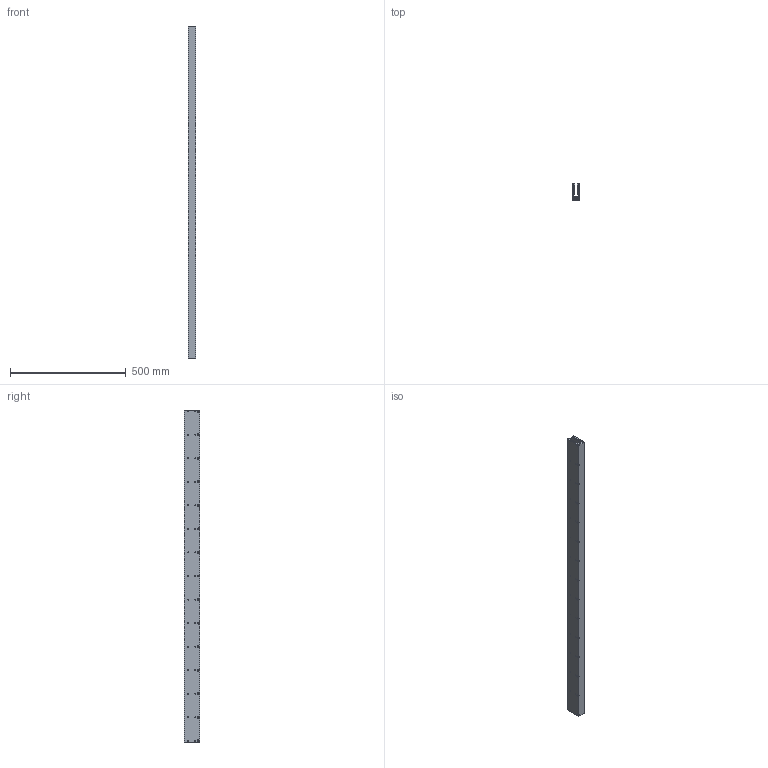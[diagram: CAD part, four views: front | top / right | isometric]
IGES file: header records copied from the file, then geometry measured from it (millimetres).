
Global section: file name: No Iges File Name specified; native system: Autodesk Inventor 2009; preprocessor: AutoDesk Inventor Iges Exporter R2009; author: je17857; date: 20091116.111732; units: inch
Bounding box: 34.29 x 67.31 x 1432.56 mm (x, y, z)
Volume: 2140558.5 mm3; surface area: 539583.5 mm2
Topology: 1 solids, 1 shells, 750 faces, 1782 edges, 1188 vertices
Faces by surface type: plane 510, bspline 240
